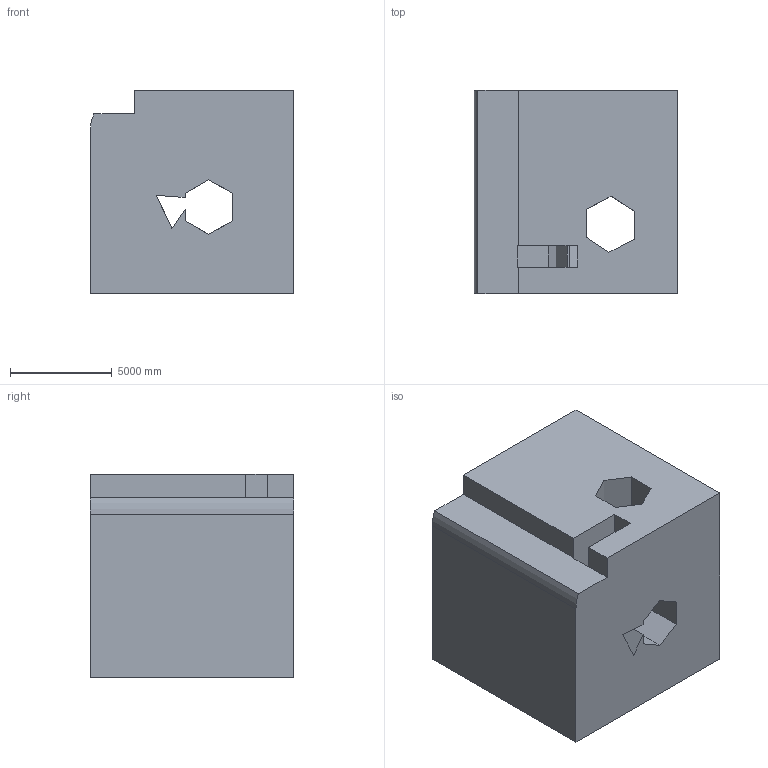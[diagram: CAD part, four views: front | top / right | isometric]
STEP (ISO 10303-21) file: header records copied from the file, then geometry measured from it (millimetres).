
FILE_DESCRIPTION (( 'STEP AP203' ), '1' );
FILE_NAME ('1658.STEP', '2022-08-19T11:26:34', ( 'user' ), ( '' ), 'SwSTEP 2.0', 'SolidWorks 2021', '' );
FILE_SCHEMA (( 'CONFIG_CONTROL_DESIGN' ));
Length unit declared in the file: centimetre
Products named in the file (1): 1658
Bounding box: 10000 x 10000 x 10000 mm (x, y, z)
Volume: 845888642665.7 mm3; surface area: 797316158.8 mm2
Topology: 1 solids, 1 shells, 48 faces, 150 edges, 100 vertices
Faces by surface type: plane 47, cylinder 1
Entity records: 1729 total; most frequent: ORIENTED_EDGE 300, CARTESIAN_POINT 299, DIRECTION 250, EDGE_CURVE 150, VECTOR 148, LINE 148, VERTEX_POINT 100, EDGE_LOOP 52
